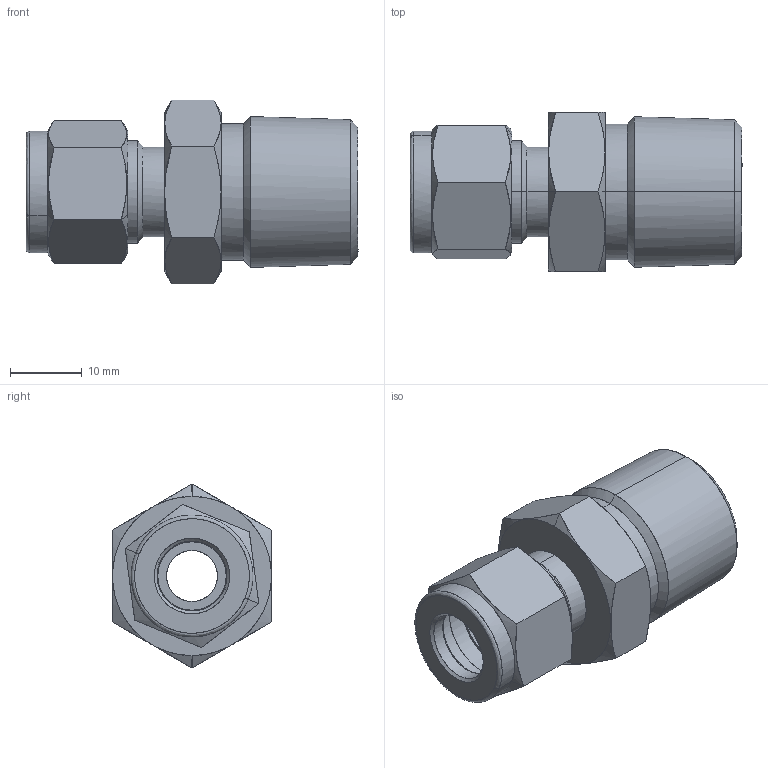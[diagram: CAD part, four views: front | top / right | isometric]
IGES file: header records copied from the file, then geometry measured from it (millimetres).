
Start section: Comment
Global section: file name: SMC6-8N.igs; native system:  By UGS Corp.; preprocessor: XPlus GENERIC/IGES 3.0; author: Author; organization: Title; date: 20100113.154742; units: millimetre
Bounding box: 46.3 x 22.2 x 25.63 mm (x, y, z)
Surface area: 5733.4 mm2 (no closed solid volume)
Topology: 0 solids, 0 shells, 82 faces, 344 edges, 344 vertices
Faces by surface type: bspline 82
